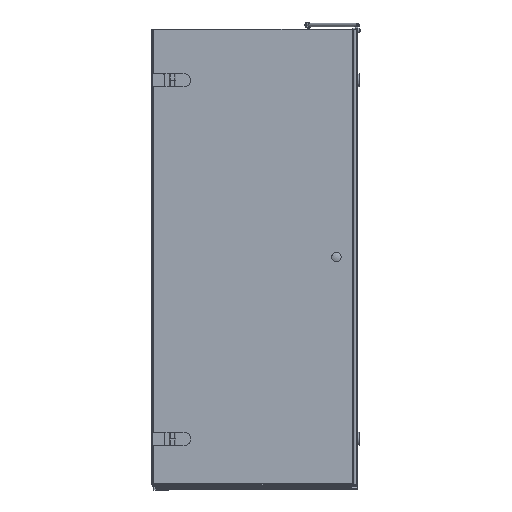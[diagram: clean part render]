
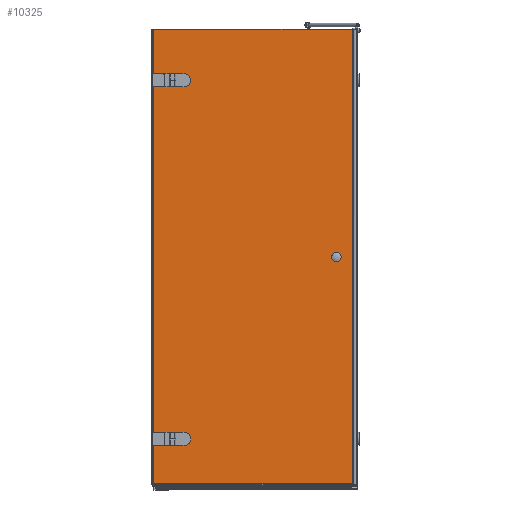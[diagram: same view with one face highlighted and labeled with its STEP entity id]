
A CAD part, front view. The second image highlights one B-rep face of the part: STEP entity #10325.
In plain terms, the highlighted planar face has unit normal (0, -1, 0).
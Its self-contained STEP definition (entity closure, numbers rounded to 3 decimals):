
#169=FACE_BOUND($,#1601,.T.);
#170=FACE_BOUND($,#1602,.T.);
#171=FACE_BOUND($,#1603,.T.);
#172=FACE_BOUND($,#1604,.T.);
#213=CIRCLE($,#10595,26.);
#225=CIRCLE($,#10632,26.);
#379=CIRCLE($,#11085,15.);
#1601=EDGE_LOOP($,(#7818,#7819,#7820,#7821));
#1602=EDGE_LOOP($,(#7822,#7823,#7824,#7825));
#1603=EDGE_LOOP($,(#7826,#7827,#7828,#7829));
#1604=EDGE_LOOP($,(#7830));
#1903=LINE($,#14371,#2922);
#1906=LINE($,#14377,#2925);
#1910=LINE($,#14387,#2929);
#1953=LINE($,#14499,#2972);
#1956=LINE($,#14505,#2975);
#1960=LINE($,#14515,#2979);
#2627=LINE($,#16761,#3646);
#2628=LINE($,#16763,#3647);
#2629=LINE($,#16765,#3648);
#2630=LINE($,#16766,#3649);
#2922=VECTOR($,#11536,52.);
#2925=VECTOR($,#11541,23.);
#2929=VECTOR($,#11553,23.);
#2972=VECTOR($,#11660,52.);
#2975=VECTOR($,#11665,23.);
#2979=VECTOR($,#11677,23.);
#3646=VECTOR($,#13246,1875.4);
#3647=VECTOR($,#13247,820.4);
#3648=VECTOR($,#13248,1875.4);
#3649=VECTOR($,#13249,820.4);
#3937=VERTEX_POINT($,#14368);
#3938=VERTEX_POINT($,#14370);
#3940=VERTEX_POINT($,#14376);
#3942=VERTEX_POINT($,#14382);
#3978=VERTEX_POINT($,#14496);
#3979=VERTEX_POINT($,#14498);
#3981=VERTEX_POINT($,#14504);
#3983=VERTEX_POINT($,#14510);
#4513=VERTEX_POINT($,#16759);
#4514=VERTEX_POINT($,#16760);
#4515=VERTEX_POINT($,#16762);
#4516=VERTEX_POINT($,#16764);
#4517=VERTEX_POINT($,#16767);
#4823=EDGE_CURVE($,#3938,#3937,#1903,.T.);
#4826=EDGE_CURVE($,#3940,#3938,#1906,.T.);
#4829=EDGE_CURVE($,#3942,#3940,#213,.T.);
#4832=EDGE_CURVE($,#3937,#3942,#1910,.T.);
#4885=EDGE_CURVE($,#3979,#3978,#1953,.T.);
#4888=EDGE_CURVE($,#3981,#3979,#1956,.T.);
#4891=EDGE_CURVE($,#3983,#3981,#225,.T.);
#4894=EDGE_CURVE($,#3978,#3983,#1960,.T.);
#5737=EDGE_CURVE($,#4513,#4514,#2627,.T.);
#5738=EDGE_CURVE($,#4514,#4515,#2628,.T.);
#5739=EDGE_CURVE($,#4515,#4516,#2629,.T.);
#5740=EDGE_CURVE($,#4513,#4516,#2630,.T.);
#5741=EDGE_CURVE($,#4517,#4517,#379,.T.);
#7818=ORIENTED_EDGE($,*,*,#4823,.T.);
#7819=ORIENTED_EDGE($,*,*,#4832,.T.);
#7820=ORIENTED_EDGE($,*,*,#4829,.T.);
#7821=ORIENTED_EDGE($,*,*,#4826,.T.);
#7822=ORIENTED_EDGE($,*,*,#4885,.T.);
#7823=ORIENTED_EDGE($,*,*,#4894,.T.);
#7824=ORIENTED_EDGE($,*,*,#4891,.T.);
#7825=ORIENTED_EDGE($,*,*,#4888,.T.);
#7826=ORIENTED_EDGE($,*,*,#5737,.T.);
#7827=ORIENTED_EDGE($,*,*,#5738,.T.);
#7828=ORIENTED_EDGE($,*,*,#5739,.T.);
#7829=ORIENTED_EDGE($,*,*,#5740,.F.);
#7830=ORIENTED_EDGE($,*,*,#5741,.T.);
#9252=PLANE($,#11084);
#10325=ADVANCED_FACE($,(#169,#170,#171,#172),#9252,.T.);
#10595=AXIS2_PLACEMENT_3D($,#14383,#11547,#11548);
#10632=AXIS2_PLACEMENT_3D($,#14511,#11671,#11672);
#11084=AXIS2_PLACEMENT_3D($,#16758,#13244,#13245);
#11085=AXIS2_PLACEMENT_3D($,#16768,#13250,#13251);
#11536=DIRECTION($,(0.,0.,1.));
#11541=DIRECTION($,(-1.,0.,0.));
#11547=DIRECTION('center_axis',(0.,1.,0.));
#11548=DIRECTION('ref_axis',(0.,0.,
1.));
#11553=DIRECTION($,(1.,0.,0.));
#11660=DIRECTION($,(0.,0.,1.));
#11665=DIRECTION($,(-1.,0.,0.));
#11671=DIRECTION('center_axis',(0.,1.,0.));
#11672=DIRECTION('ref_axis',(0.,0.,
1.));
#11677=DIRECTION($,(1.,0.,0.));
#13244=DIRECTION('center_axis',(0.,-1.,0.));
#13245=DIRECTION('ref_axis',(1.,0.,0.));
#13246=DIRECTION($,(0.,0.,-1.));
#13247=DIRECTION($,(1.,0.,0.));
#13248=DIRECTION($,(0.,0.,1.));
#13249=DIRECTION($,(1.,0.,0.));
#13250=DIRECTION('center_axis',(0.,1.,0.));
#13251=DIRECTION('ref_axis',(-0.575,0.,0.818));
#14368=CARTESIAN_POINT('',(452.376,-44.044,-278.056));
#14370=CARTESIAN_POINT('',(452.376,-44.044,-330.056));
#14371=CARTESIAN_POINT($,(452.376,-44.044,-412.056));
#14376=CARTESIAN_POINT('',(475.376,-44.044,-330.056));
#14377=CARTESIAN_POINT($,(409.876,-44.044,-330.056));
#14382=CARTESIAN_POINT('',(475.376,-44.044,-278.056));
#14383=CARTESIAN_POINT('Origin',(475.376,-44.044,-304.056));
#14387=CARTESIAN_POINT($,(398.376,-44.044,-278.056));
#14496=CARTESIAN_POINT('',(452.376,-44.044,1201.944));
#14498=CARTESIAN_POINT('',(452.376,-44.044,1149.944));
#14499=CARTESIAN_POINT($,(452.376,-44.044,327.944));
#14504=CARTESIAN_POINT('',(475.376,-44.044,1149.944));
#14505=CARTESIAN_POINT($,(409.876,-44.044,1149.944));
#14510=CARTESIAN_POINT('',(475.376,-44.044,1201.944));
#14511=CARTESIAN_POINT('Origin',(475.376,-44.044,1175.944));
#14515=CARTESIAN_POINT($,(398.376,-44.044,1201.944));
#16758=CARTESIAN_POINT('Origin',(344.376,-44.044,-494.056));
#16759=CARTESIAN_POINT('',(349.376,-44.044,1385.944));
#16760=CARTESIAN_POINT('',(349.376,-44.044,-489.456));
#16761=CARTESIAN_POINT($,(349.376,-44.044,445.944));
#16762=CARTESIAN_POINT('',(1169.776,-44.044,-489.456));
#16763=CARTESIAN_POINT($,(344.376,-44.044,-489.456));
#16764=CARTESIAN_POINT('',(1169.776,-44.044,1385.944));
#16765=CARTESIAN_POINT($,(1169.776,-44.044,-494.056));
#16766=CARTESIAN_POINT($,(344.376,-44.044,1385.944));
#16767=CARTESIAN_POINT('',(1095.757,-44.044,458.221));
#16768=CARTESIAN_POINT('Origin',(1104.376,-44.044,445.944));
